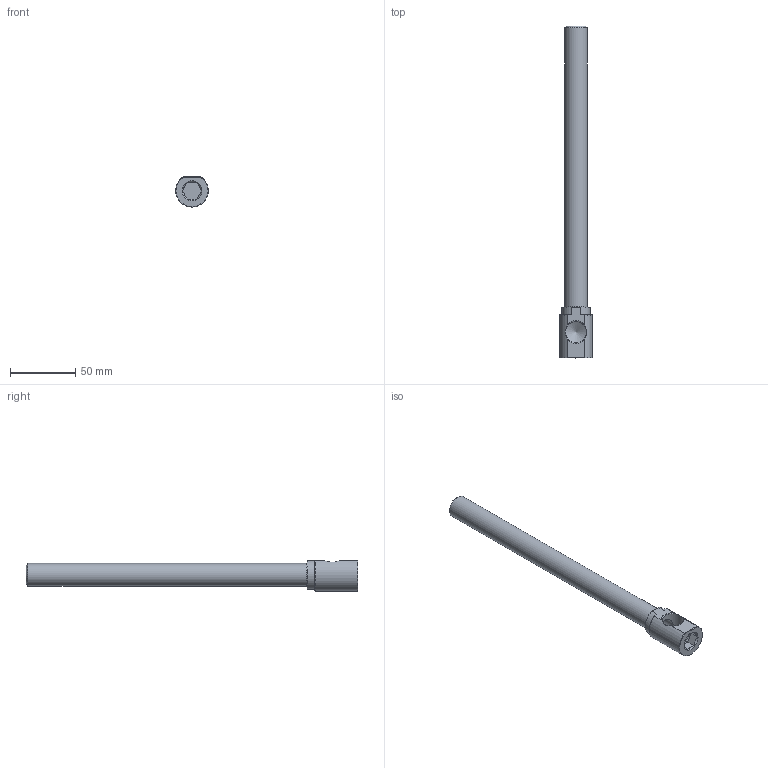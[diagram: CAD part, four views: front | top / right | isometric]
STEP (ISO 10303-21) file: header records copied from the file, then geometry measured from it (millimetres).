
FILE_DESCRIPTION(/* description */ (''),/* implementation_level */ '2;1');
FILE_NAME(/* name */ 'C:/Users/drich/Desktop/EKL38 X 10 v2.step',/* time_stamp */ '2019-11-18T14:42:08-06:00',/* author */ (''),/* organization */ (''),/* preprocessor_version */ 'ST-DEVELOPER v18',/* originating_system */ 'Autodesk Translation Framework v8.12.0.6',/* authorisation */ '');
FILE_SCHEMA (('AUTOMOTIVE_DESIGN { 1 0 10303 214 3 1 1 }'));
Length unit declared in the file: inch
Products named in the file (2): EKL38 X 10; EKL38 X 10_1
Assembly tree (1 placements, depth 2):
  EKL38 X 10
    EKL38 X 10_1
Bounding box: 25.01 x 254 x 23.03 mm (x, y, z)
Volume: 38197.2 mm3; surface area: 25100.7 mm2
Topology: 1 solids, 1 shells, 43 faces, 116 edges, 76 vertices
Faces by surface type: plane 21, cone 11, cylinder 11
Full cylindrical faces by diameter (mm): 11.887 x1, 16.231 x1, 17.328 x1
Entity records: 1463 total; most frequent: CARTESIAN_POINT 345, ORIENTED_EDGE 230, DIRECTION 218, EDGE_CURVE 115, AXIS2_PLACEMENT_3D 81, VERTEX_POINT 76, LINE 56, VECTOR 56
